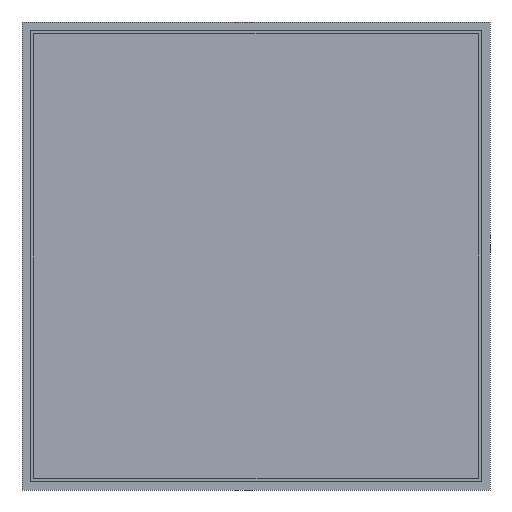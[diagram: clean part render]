
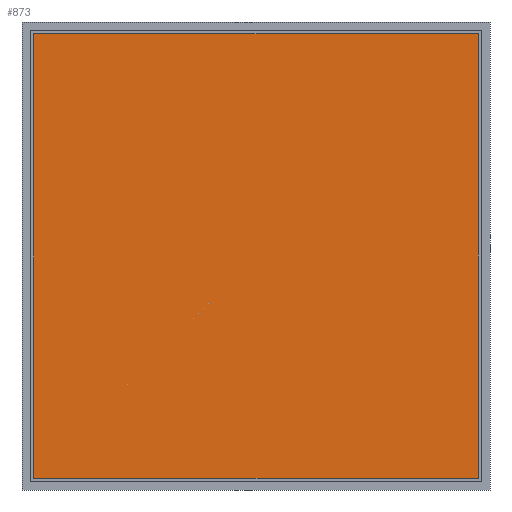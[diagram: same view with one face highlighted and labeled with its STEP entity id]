
A CAD part, front view. The second image highlights one B-rep face of the part: STEP entity #873.
In plain terms, the highlighted planar face has unit normal (0, -1, 0).
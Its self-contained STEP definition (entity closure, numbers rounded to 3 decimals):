
#26 = VECTOR ( 'NONE', #772, 1000. ) ;
#54 = EDGE_CURVE ( 'NONE', #1302, #935, #907, .T. ) ;
#62 = EDGE_CURVE ( 'NONE', #498, #1302, #1673, .T. ) ;
#70 = ORIENTED_EDGE ( 'NONE', *, *, #62, .F. ) ;
#144 = VECTOR ( 'NONE', #692, 1000. ) ;
#151 = DIRECTION ( 'NONE',  ( -1., 0., 0. ) ) ;
#304 = CARTESIAN_POINT ( 'NONE',  ( -57., 21., -57. ) ) ;
#316 = ORIENTED_EDGE ( 'NONE', *, *, #1511, .F. ) ;
#336 = EDGE_LOOP ( 'NONE', ( #1105, #316, #1441, #70 ) ) ;
#385 = FACE_OUTER_BOUND ( 'NONE', #336, .T. ) ;
#498 = VERTEX_POINT ( 'NONE', #2035 ) ;
#649 = CARTESIAN_POINT ( 'NONE',  ( -57., 21., -57. ) ) ;
#692 = DIRECTION ( 'NONE',  ( 1., 0., 0. ) ) ;
#725 = CARTESIAN_POINT ( 'NONE',  ( 0., 21., 0. ) ) ;
#772 = DIRECTION ( 'NONE',  ( 0., 0., 1. ) ) ;
#806 = VECTOR ( 'NONE', #151, 1000. ) ;
#827 = AXIS2_PLACEMENT_3D ( 'NONE', #725, #1043, #2009 ) ;
#873 = ADVANCED_FACE ( 'NONE', ( #385 ), #1201, .F. ) ;
#907 = LINE ( 'NONE', #2062, #26 ) ;
#914 = LINE ( 'NONE', #2050, #1343 ) ;
#918 = DIRECTION ( 'NONE',  ( 0., 0., -1. ) ) ;
#935 = VERTEX_POINT ( 'NONE', #1182 ) ;
#1043 = DIRECTION ( 'NONE',  ( 0., 1., 0. ) ) ;
#1105 = ORIENTED_EDGE ( 'NONE', *, *, #1692, .F. ) ;
#1182 = CARTESIAN_POINT ( 'NONE',  ( -57., 21., 57. ) ) ;
#1201 = PLANE ( 'NONE',  #827 ) ;
#1302 = VERTEX_POINT ( 'NONE', #649 ) ;
#1343 = VECTOR ( 'NONE', #918, 1000. ) ;
#1352 = LINE ( 'NONE', #1662, #144 ) ;
#1441 = ORIENTED_EDGE ( 'NONE', *, *, #54, .F. ) ;
#1511 = EDGE_CURVE ( 'NONE', #935, #1619, #1352, .T. ) ;
#1619 = VERTEX_POINT ( 'NONE', #1956 ) ;
#1662 = CARTESIAN_POINT ( 'NONE',  ( -57., 21., 57. ) ) ;
#1673 = LINE ( 'NONE', #304, #806 ) ;
#1692 = EDGE_CURVE ( 'NONE', #1619, #498, #914, .T. ) ;
#1956 = CARTESIAN_POINT ( 'NONE',  ( 57., 21., 57. ) ) ;
#2009 = DIRECTION ( 'NONE',  ( 0., 0., -1. ) ) ;
#2035 = CARTESIAN_POINT ( 'NONE',  ( 57., 21., -57. ) ) ;
#2050 = CARTESIAN_POINT ( 'NONE',  ( 57., 21., 57. ) ) ;
#2062 = CARTESIAN_POINT ( 'NONE',  ( -57., 21., 57. ) ) ;
